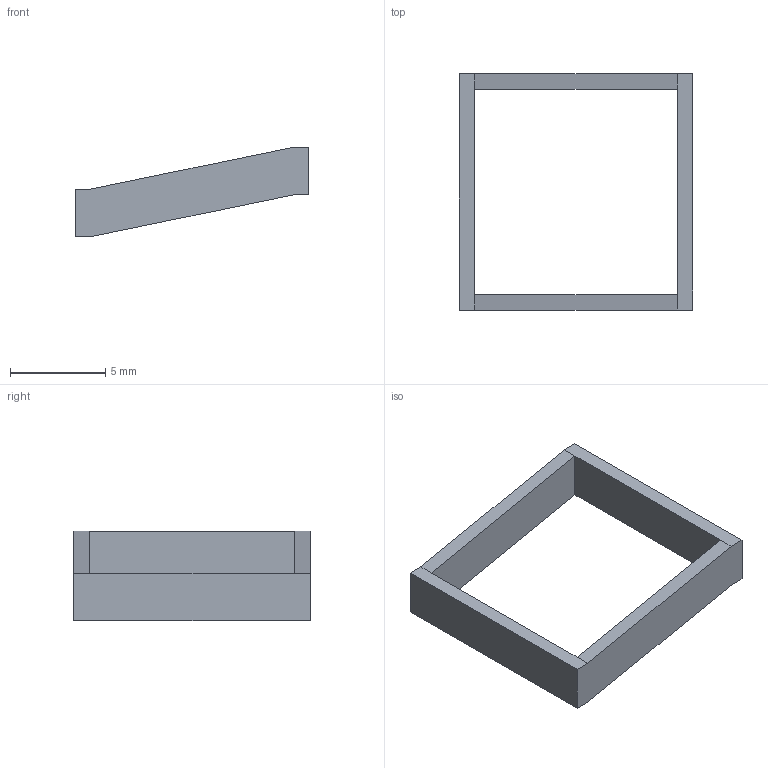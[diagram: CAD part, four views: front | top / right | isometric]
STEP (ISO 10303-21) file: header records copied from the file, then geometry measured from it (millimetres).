
FILE_DESCRIPTION(('Open CASCADE Model'),'2;1');
FILE_NAME('Open CASCADE Shape Model','2026-11-12T20:35:42',('Author'),( 'Open CASCADE'),'Open CASCADE STEP processor 7.9','Open CASCADE 7.9' ,'Unknown');
FILE_SCHEMA(('AUTOMOTIVE_DESIGN { 1 0 10303 214 1 1 1 1 }'));
Length unit declared in the file: millimetre
Products named in the file (1): Open CASCADE STEP translator 7.9 19
Bounding box: 12.25 x 12.4 x 4.7 mm (x, y, z)
Volume: 92.2 mm3; surface area: 305 mm2
Topology: 1 solids, 1 shells, 16 faces, 40 edges, 24 vertices
Faces by surface type: plane 16
Entity records: 994 total; most frequent: CARTESIAN_POINT 161, DIRECTION 154, LINE 120, VECTOR 120, ORIENTED_EDGE 80, PCURVE 80, DEFINITIONAL_REPRESENTATION 80, EDGE_CURVE 40
